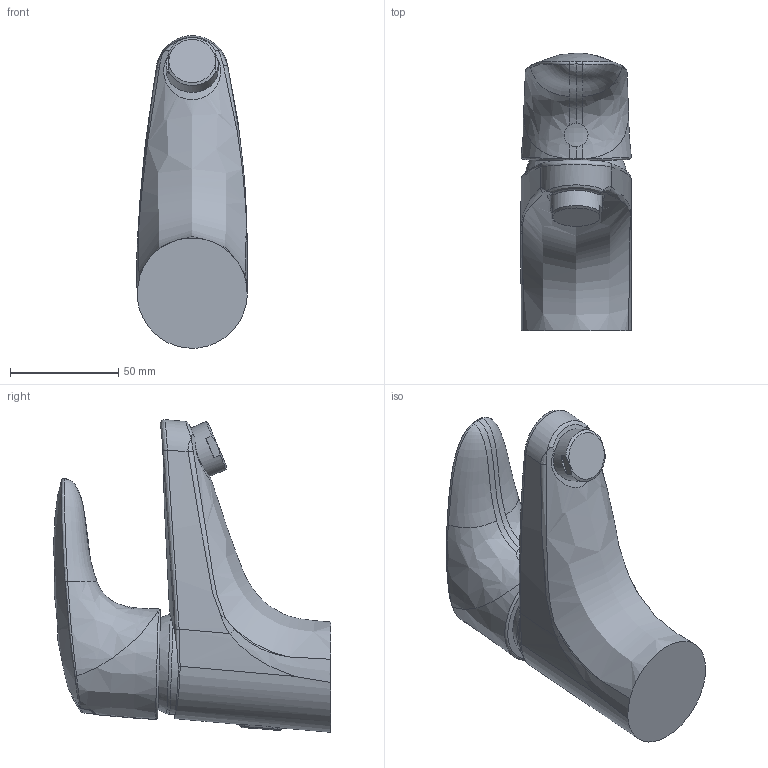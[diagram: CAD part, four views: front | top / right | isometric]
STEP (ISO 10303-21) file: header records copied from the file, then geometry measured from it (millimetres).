
FILE_DESCRIPTION (( 'STEP AP203' ), '1' );
FILE_NAME ('1810F+1810+1808E+1807E.STEP', '2017-03-09T05:43:53', ( '' ), ( '' ), 'SwSTEP 2.0', 'SolidWorks 2016', '' );
FILE_SCHEMA (( 'CONFIG_CONTROL_DESIGN' ));
Length unit declared in the file: millimetre
Products named in the file (1): 1810F+1810+1808E+1807E
Bounding box: 51.18 x 128.41 x 144.67 mm (x, y, z)
Volume: 381057.6 mm3; surface area: 39926.4 mm2
Topology: 2 solids, 2 shells, 130 faces, 323 edges, 198 vertices
Faces by surface type: bspline 102, plane 12, cylinder 10, cone 5, sphere 1
Full cylindrical faces by diameter (mm): 24 x1
Entity records: 17047 total; most frequent: CARTESIAN_POINT 14742, ORIENTED_EDGE 636, EDGE_CURVE 318, B_SPLINE_CURVE_WITH_KNOTS 223, VERTEX_POINT 196, DIRECTION 189, EDGE_LOOP 134, FACE_OUTER_BOUND 132
